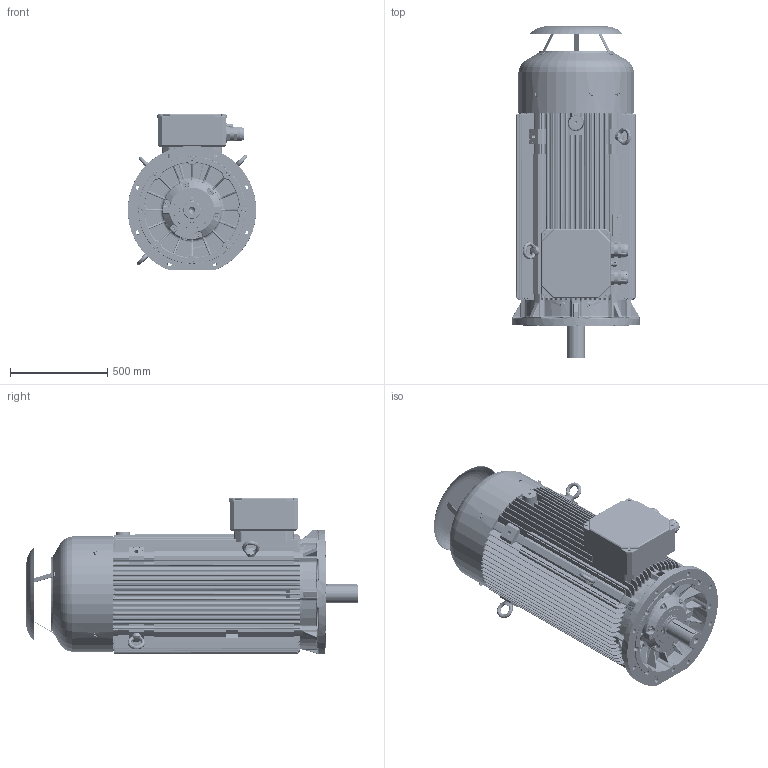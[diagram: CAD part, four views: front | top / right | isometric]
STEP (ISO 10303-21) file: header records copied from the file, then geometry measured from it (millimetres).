
FILE_DESCRIPTION(/* description */ ('Unknown'),/* implementation_level */ '2;1');
FILE_NAME(/* name */ '4SIEK315L4_6C',/* time_stamp */ '2023-05-10T13:19:12+02:00',/* author */ ('Unknown'),/* organization */ ('Unknown'),/* preprocessor_version */ 'ST-DEVELOPER v16.7',/* originating_system */ 'DEX',/* authorisation */ $);
FILE_SCHEMA (('AUTOMOTIVE_DESIGN {1 0 10303 214 3 1 1}'));
Products named in the file (1): 4SIEK315L4_6C
Bounding box: 660 x 1705.56 x 805.5 mm (x, y, z)
Volume: 152231222.9 mm3; surface area: 12950162.7 mm2
Topology: 2 solids, 31 shells, 9268 faces, 25277 edges, 15929 vertices
Faces by surface type: plane 5172, cylinder 1995, bspline 760, torus 736, cone 385, sphere 220
Full cylindrical faces by diameter (mm): 1.5 x2, 2.459 x7, 3.1 x4, 3.4 x4, 3.5 x2, 4 x1, 4.5 x1, 4.917 x4, 5 x2, 5.35 x2, 5.5 x3, 6.3 x2, 6.4 x2, 8 x4, 8.16 x8, 8.376 x6, 8.4 x3, 8.917 x1, 10 x24, 10.106 x12, 10.5 x4, 11 x6, 11.5 x1, 13.546 x9, 13.835 x2, 14 x6, 14.376 x20, 14.5 x2, 14.63 x8, 15 x1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
Entity records: 373904 total; most frequent: CARTESIAN_POINT 80770, ORIENTED_EDGE 48354, DIRECTION 44297, EDGE_CURVE 24177, VERTEX_POINT 15640, LINE 15501, VECTOR 15501, AXIS2_PLACEMENT_3D 14398
